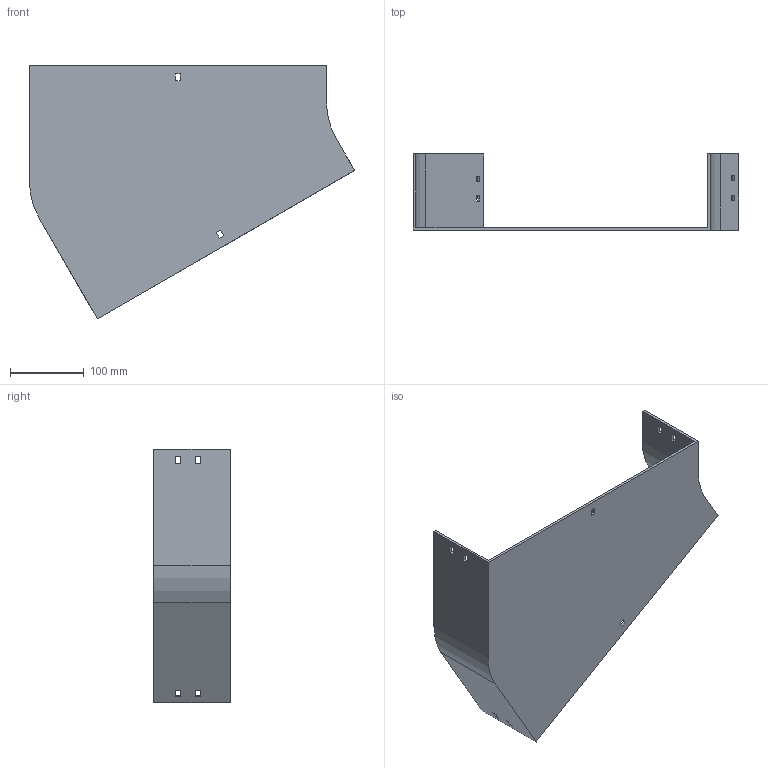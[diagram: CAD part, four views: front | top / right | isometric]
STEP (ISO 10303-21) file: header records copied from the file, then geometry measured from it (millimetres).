
FILE_DESCRIPTION (( 'STEP AP214' ), '1' );
FILE_NAME ('12B1D400.step', '2025-02-21T09:33:37', ( '' ), ( '' ), 'SwSTEP 2.0', 'SolidWorks 2023', '' );
FILE_SCHEMA (( 'AUTOMOTIVE_DESIGN' ));
Length unit declared in the file: millimetre
Products named in the file (1): 12B1D400
Bounding box: 442.4 x 104 x 345.3 mm (x, y, z)
Volume: 551214.2 mm3; surface area: 322207.8 mm2
Topology: 1 solids, 1 shells, 58 faces, 168 edges, 112 vertices
Faces by surface type: plane 54, cylinder 4
Entity records: 1943 total; most frequent: CARTESIAN_POINT 339, ORIENTED_EDGE 336, DIRECTION 294, EDGE_CURVE 168, LINE 160, VECTOR 160, VERTEX_POINT 112, EDGE_LOOP 78
